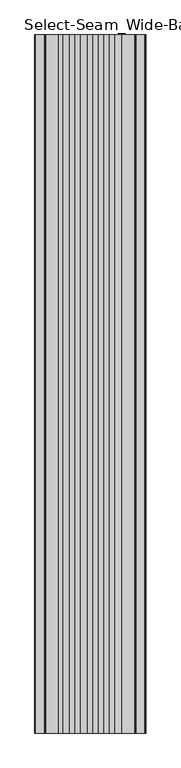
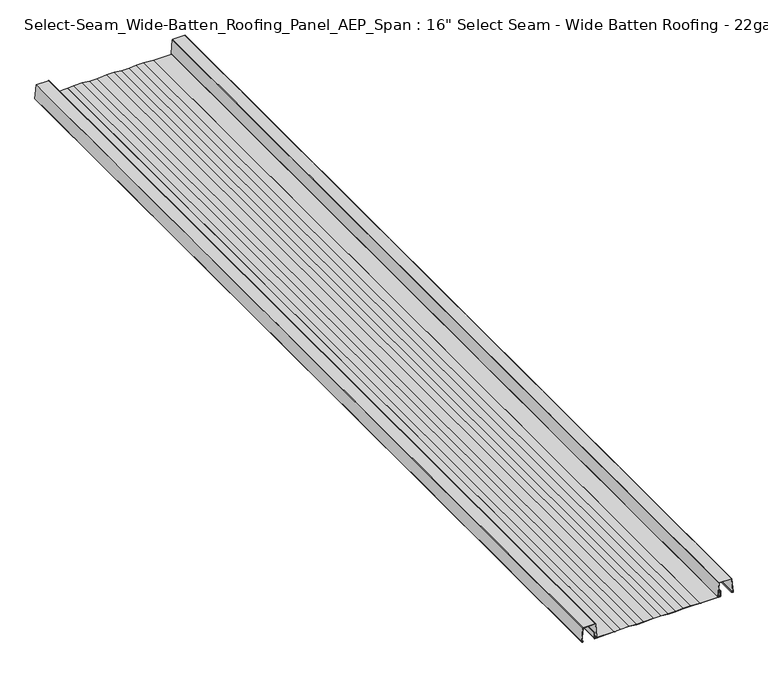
"""IFC4 building model written with IfcOpenShell, lengths in millimetres: proxy geometry."""

import ifcopenshell
import ifcopenshell.guid

model = None  # the IFC model being written
_history = None  # IfcOwnerHistory: only IFC2X3 demands one
_inside = {}  # id of a spatial element -> (the spatial element, [elements in it])
_under = {}  # id of a project, library or spatial element -> (it, [spatial elements below it])
_declared = {}  # id of a project -> (the project, [libraries it declares])
_typed = {}  # id of a type object -> (the type object, [elements of that type])
_made_of = {}  # id of a material, layer set ... -> (it, [elements and type objects made of it])


def new_model(schema):
    """Start an empty IFC model of exactly this schema.

    Asked for "IFC4X3", IfcOpenShell would pick the latest addendum, in which some entities
    have other attributes; the version numbers below select the first issue.
    IFC2X3 requires an IfcOwnerHistory on every rooted entity: one is made here for all.
    """
    global model, _history
    if schema == "IFC4X3":
        model = ifcopenshell.file(schema_version=(4, 3, 0, 0))
    else:
        model = ifcopenshell.file(schema=schema)
    _inside.clear()
    _under.clear()
    _declared.clear()
    _typed.clear()
    _made_of.clear()
    _history = None
    if model.schema == "IFC2X3":
        org = make("IfcOrganization", Name="unknown")
        user = make(
            "IfcPersonAndOrganization",
            ThePerson=make("IfcPerson", FamilyName="unknown"),
            TheOrganization=org,
        )
        app = make(
            "IfcApplication",
            ApplicationDeveloper=org,
            Version="unknown",
            ApplicationFullName="unknown",
            ApplicationIdentifier="unknown",
        )
        _history = make(
            "IfcOwnerHistory",
            OwningUser=user,
            OwningApplication=app,
            ChangeAction="ADDED",
            CreationDate=0,
        )
    return model


def make(cls, **values):
    """One entity of the class cls with the attributes given. An attribute that is None is left unset."""
    return model.create_entity(
        cls, **{name: value for name, value in values.items() if value is not None}
    )


def rooted(cls, **values):
    """An entity with a GlobalId (a new one), such as an element, a storey or a relation."""
    return make(cls, GlobalId=ifcopenshell.guid.new(), OwnerHistory=_history, **values)


def si_unit(unit_type, name, prefix=None):
    """IfcSIUnit, for example si_unit("LENGTHUNIT", "METRE", prefix="MILLI")."""
    return make("IfcSIUnit", UnitType=unit_type, Prefix=prefix, Name=name)


def assignment(units):
    """IfcUnitAssignment: the units of a project."""
    return None if units is None else make("IfcUnitAssignment", Units=units)


def point(xyz):
    """IfcCartesianPoint."""
    return None if xyz is None else make("IfcCartesianPoint", Coordinates=xyz)


def direction(xyz):
    """IfcDirection."""
    return None if xyz is None else make("IfcDirection", DirectionRatios=xyz)


def frame(location, z_axis=None, x_axis=None):
    """IfcAxis2Placement3D, a coordinate frame: its origin and axes. An axis left out is left unset."""
    return make(
        "IfcAxis2Placement3D",
        Location=point(location),
        Axis=direction(z_axis),
        RefDirection=direction(x_axis),
    )


def frame_2d(location, x_axis=None):
    """IfcAxis2Placement2D, a coordinate frame in the plane: its origin and x axis."""
    return make(
        "IfcAxis2Placement2D", Location=point(location), RefDirection=direction(x_axis)
    )


def origin():
    """The frame at (0, 0, 0) with its axes left unset."""
    return frame((0.0, 0.0, 0.0))


def place(relative_to, where):
    """IfcLocalPlacement: puts the frame where relative to a parent placement (None: the world)."""
    return make(
        "IfcLocalPlacement", PlacementRelTo=relative_to, RelativePlacement=where
    )


def context(
    kind, dimensions, precision=None, world=None, true_north=None, identifier=None
):
    """IfcGeometricRepresentationContext, for example the 3D "Model" context."""
    return make(
        "IfcGeometricRepresentationContext",
        ContextIdentifier=identifier,
        ContextType=kind,
        CoordinateSpaceDimension=dimensions,
        Precision=precision,
        WorldCoordinateSystem=world,
        TrueNorth=true_north,
    )


def project(units=None, contexts=None):
    """IfcProject with its units and contexts."""
    return rooted(
        "IfcProject",
        Name="project",
        RepresentationContexts=contexts,
        UnitsInContext=assignment(units),
    )


def spatial(cls, under=None, at=None, **own):
    """A site, building, storey or space (cls), placed at a placement, below another one or the project."""
    s = rooted(cls, ObjectPlacement=at, **own)
    if under is not None:
        _under.setdefault(under.id(), (under, []))[1].append(s)
    return s


def polyline(points):
    """IfcPolyline through the points."""
    return make("IfcPolyline", Points=[point(p) for p in points])


def circle_curve(where, radius):
    """IfcCircle in the frame where."""
    return make("IfcCircle", Position=where, Radius=radius)


def trimmed(basis, trim1, trim2, sense, master):
    """IfcTrimmedCurve: the piece of a basis curve between two trims."""
    return make(
        "IfcTrimmedCurve",
        BasisCurve=basis,
        Trim1=trim1,
        Trim2=trim2,
        SenseAgreement=sense,
        MasterRepresentation=master,
    )


def segment(curve, same_sense, transition):
    """IfcCompositeCurveSegment."""
    return make(
        "IfcCompositeCurveSegment",
        Transition=transition,
        SameSense=same_sense,
        ParentCurve=curve,
    )


def composite_curve(segments, self_intersect=None):
    """IfcCompositeCurve: segments joined end to end."""
    return make("IfcCompositeCurve", Segments=segments, SelfIntersect=self_intersect)


def outline(outer, holes=None, kind="AREA"):
    """IfcArbitraryClosedProfileDef: a profile drawn as a closed curve; with holes, ...WithVoids."""
    if holes is None:
        return make("IfcArbitraryClosedProfileDef", ProfileType=kind, OuterCurve=outer)
    return make(
        "IfcArbitraryProfileDefWithVoids",
        ProfileType=kind,
        OuterCurve=outer,
        InnerCurves=holes,
    )


def extrude(swept, where, along, depth):
    """IfcExtrudedAreaSolid: the profile swept, set in the frame where, extruded along a direction by depth."""
    return make(
        "IfcExtrudedAreaSolid",
        SweptArea=swept,
        Position=where,
        ExtrudedDirection=direction(along),
        Depth=depth,
    )


def shape(context_of_items, identifier, shape_type, items):
    """IfcShapeRepresentation: the items that make up one representation, for example the "Body"."""
    return make(
        "IfcShapeRepresentation",
        ContextOfItems=context_of_items,
        RepresentationIdentifier=identifier,
        RepresentationType=shape_type,
        Items=items,
    )


def source(mapping_origin, context_of_items, identifier, shape_type, items):
    """IfcRepresentationMap: a shape defined once, which mapped items show again and again."""
    return make(
        "IfcRepresentationMap",
        MappingOrigin=mapping_origin,
        MappedRepresentation=shape(context_of_items, identifier, shape_type, items),
    )


def transform(
    local_origin,
    x_axis=None,
    y_axis=None,
    z_axis=None,
    scale=None,
    scale2=None,
    scale3=None,
    uniform=True,
):
    """IfcCartesianTransformationOperator3D, or its non-uniform kind. x_axis, y_axis, z_axis: its Axis1, 2, 3."""
    if uniform:
        return make(
            "IfcCartesianTransformationOperator3D",
            Axis1=direction(x_axis),
            Axis2=direction(y_axis),
            LocalOrigin=point(local_origin),
            Scale=scale,
            Axis3=direction(z_axis),
        )
    return make(
        "IfcCartesianTransformationOperator3DnonUniform",
        Axis1=direction(x_axis),
        Axis2=direction(y_axis),
        LocalOrigin=point(local_origin),
        Scale=scale,
        Axis3=direction(z_axis),
        Scale2=scale2,
        Scale3=scale3,
    )


def mapped(mapping_source, mapping_target):
    """IfcMappedItem: shows the shape of a source again, moved by a transform."""
    return make(
        "IfcMappedItem", MappingSource=mapping_source, MappingTarget=mapping_target
    )


def made_of(thing, what):
    """Note that an element or type object is made of a material, layer set ...; save() writes the relation."""
    if what is not None:
        _made_of.setdefault(what.id(), (what, []))[1].append(thing)
    return thing


def element(
    cls,
    number,
    at=None,
    inside=None,
    cuts=None,
    type_object=None,
    material=None,
    context=None,
    identifier="Body",
    shape_type=None,
    held_by="IfcProductDefinitionShape",
    body=None,
    shapes=None,
    **own,
):
    """One element of the class cls, such as IfcWall. Its Tag is "e" and its number.

    at: its placement. inside: the storey or other place that contains it. cuts: it is an
    opening in that element (IfcRelVoidsElement). A single representation is given by context,
    identifier, shape_type and body (its items); several are given by shapes. held_by: the class
    of the entity that holds the representations. save() writes the other relations.
    """
    e = rooted(cls, Tag="e%d" % number, ObjectPlacement=at, **own)
    if body is not None:
        shapes = [shape(context, identifier, shape_type, body)]
    if shapes is not None:
        e.Representation = make(held_by, Representations=shapes)
    if inside is not None:
        _inside.setdefault(inside.id(), (inside, []))[1].append(e)
    if cuts is not None:
        rooted(
            "IfcRelVoidsElement", RelatingBuildingElement=cuts, RelatedOpeningElement=e
        )
    if type_object is not None:
        _typed.setdefault(type_object.id(), (type_object, []))[1].append(e)
    return made_of(e, material)


def aggregate(whole, parts):
    """IfcRelAggregates: a whole, such as a stair, and the parts it consists of."""
    return rooted("IfcRelAggregates", RelatingObject=whole, RelatedObjects=parts)


def save(model, path):
    """Write the relations noted so far, then the file.

    IfcRelAggregates (storeys below a building ...), IfcRelContainedInSpatialStructure (elements
    in a storey), IfcRelDefinesByType, IfcRelAssociatesMaterial and IfcRelDeclares: one each for
    every whole, place, type object, material and project.
    """
    for whole, parts in _under.values():
        aggregate(whole, parts)
    for where, things in _inside.values():
        rooted(
            "IfcRelContainedInSpatialStructure",
            RelatedElements=things,
            RelatingStructure=where,
        )
    for kind, things in _typed.values():
        rooted("IfcRelDefinesByType", RelatedObjects=things, RelatingType=kind)
    for what, things in _made_of.values():
        rooted("IfcRelAssociatesMaterial", RelatedObjects=things, RelatingMaterial=what)
    for by, libraries in _declared.values():
        rooted("IfcRelDeclares", RelatingContext=by, RelatedDefinitions=libraries)
    model.write(path)


def plane_surface(at):
    """IfcPlane: the flat surface through the origin of the frame at, square to its z axis."""
    return make("IfcPlane", Position=at)


def cylinder_surface(at, radius):
    """IfcCylindricalSurface: all points at the distance radius from the z axis of the frame at."""
    return make("IfcCylindricalSurface", Position=at, Radius=radius)


def revolved_surface(curve, axis_point, axis_direction):
    """IfcSurfaceOfRevolution: the curve turned about the line through axis_point along axis_direction."""
    return make(
        "IfcSurfaceOfRevolution",
        SweptCurve=make("IfcArbitraryOpenProfileDef", ProfileType="CURVE", Curve=curve),
        AxisPosition=make("IfcAxis1Placement", Location=point(axis_point), Axis=direction(axis_direction)),
    )


def advanced_brep(points, edges, surfaces, faces):
    """IfcAdvancedBrep: a solid bounded by faces that lie on surfaces and meet in shared edges.

    An edge is (start, end): straight between two places in points (the first is 0);
    or (start, end, curve); or (start, end, curve, False) where it runs against its curve.
    A face is (place in surfaces, loops), or (place, loops, False) where it looks against
    its surface's normal. A loop lists edges by number (the first is 1), with a minus sign
    where the edge is run from its end to its start. The first loop is the outer one.
    """
    corners = [point(p) for p in points]
    vertices = [make("IfcVertexPoint", VertexGeometry=c) for c in corners]
    made = []
    for start, end, *more in edges:
        made.append(
            make(
                "IfcEdgeCurve",
                EdgeStart=vertices[start],
                EdgeEnd=vertices[end],
                EdgeGeometry=more[0] if more else make("IfcPolyline", Points=[corners[start], corners[end]]),
                SameSense=more[1] if len(more) > 1 else True,
            )
        )
    hull = []
    for where, loops, *sense in faces:
        bounds = []
        for j, loop in enumerate(loops):
            ring = [make("IfcOrientedEdge", EdgeElement=made[abs(k) - 1], Orientation=k > 0) for k in loop]
            bounds.append(
                make(
                    "IfcFaceOuterBound" if j == 0 else "IfcFaceBound",
                    Bound=make("IfcEdgeLoop", EdgeList=ring),
                    Orientation=True,
                )
            )
        hull.append(make("IfcAdvancedFace", Bounds=bounds, FaceSurface=surfaces[where], SameSense=sense[0] if sense else True))
    return make("IfcAdvancedBrep", Outer=make("IfcClosedShell", CfsFaces=hull))


def proxy_3873b3a4(model_context):
    return source(origin(), model_context, "Body", "SolidModel", [
        extrude(outline(composite_curve([segment(polyline([(0.0, 144.0825265), (0.0, 207.2089983)]), True, "CONTINUOUS"), segment(trimmed(circle_curve(frame_2d((1.8096799, 207.2089983)), 1.8096799), [point((0.0, 207.2089983))], [point((1.8096799, 209.0186782))], False, "CARTESIAN"), True, "CONTINUOUS"), segment(polyline([(1.8096799, 209.0186782), (20.7458894, 209.0186782), (20.7458894, 208.2363582), (1.8096799, 208.2363582)]), True, "CONTINUOUS"), segment(trimmed(circle_curve(frame_2d((1.8096799, 207.2204283)), 1.0159299), [point((1.8096799, 208.2363582))], [point((0.79375, 207.2204283))], True, "CARTESIAN"), True, "CONTINUOUS"), segment(polyline([(0.79375, 207.2204283), (0.79375, 144.0825265), (0.0, 144.0825265)]), True, "CONTINUOUS")], self_intersect=False)), frame((0.0, -3048.0, 0.0), z_axis=(0.0, 1.0, 0.0), x_axis=(0.0, 0.0, 1.0)), (0.0, 0.0, 1.0), 3048.0),
        extrude(outline(polyline([(0.0, -132.4451702), (2.0434874, -112.7643407), (2.0434874, -84.8610195), (0.0, -61.0689441), (0.0, -37.2768688), (2.0434874, -6.0773595), (2.0434874, 17.7147158), (0.0, 41.5067912), (0.0, 65.2988665), (2.0434874, 89.0909419), (2.0434874, 112.8830172), (0.0, 144.0825265), (0.78232, 144.0825265), (2.7902474, 112.9150277), (2.7902474, 89.0589314), (0.74676, 65.2668561), (0.74676, 41.5388016), (2.7902474, 17.7467263), (2.7902474, -6.10937), (0.74676, -37.3088793), (0.74676, -61.0369337), (2.7902474, -84.829009), (2.7902474, -112.8030053), (0.78232, -132.4451702), (0.0, -132.4451702)])), frame((0.0, -3048.0, 0.0), z_axis=(0.0, 1.0, 0.0), x_axis=(0.0, 0.0, 1.0)), (0.0, 0.0, 1.0), 3048.0),
        extrude(outline(composite_curve([segment(trimmed(circle_curve(frame_2d((2.9867257, -190.4239435)), 1.5958376), [point((1.679492, -191.3392783))], [point((3.1119337, -188.8330253))], False, "CARTESIAN"), True, "CONTINUOUS"), segment(polyline([(3.1119337, -188.8330253), (48.1630451, -192.3786246)]), True, "CONTINUOUS"), segment(trimmed(circle_curve(frame_2d((48.0691392, -193.5718133)), 1.1968782), [point((48.1630451, -192.3786246))], [point((49.2660174, -193.5718133))], False, "CARTESIAN"), True, "CONTINUOUS"), segment(polyline([(49.2660174, -193.5718133), (49.2660174, -232.8508263)]), True, "CONTINUOUS"), segment(trimmed(circle_curve(frame_2d((48.0691392, -232.8508263)), 1.1968782), [point((49.2660174, -232.8508263))], [point((48.1630451, -234.044015))], False, "CARTESIAN"), True, "CONTINUOUS"), segment(polyline([(48.1630451, -234.044015), (3.1119337, -237.5896144)]), True, "CONTINUOUS"), segment(trimmed(circle_curve(frame_2d((2.9867257, -235.9986962)), 1.5958376), [point((3.1119337, -237.5896144))], [point((1.679492, -235.0833613))], False, "CARTESIAN"), True, "CONTINUOUS"), segment(polyline([(1.679492, -235.0833613), (3.6192921, -232.3130396), (4.2606393, -232.7621158), (2.2340548, -235.5932998)]), True, "CONTINUOUS"), segment(trimmed(circle_curve(frame_2d((2.8910866, -236.0533584)), 0.8020876), [point((2.2340548, -235.5932998))], [point((2.9540176, -236.8529735))], True, "CARTESIAN"), True, "CONTINUOUS"), segment(polyline([(2.9540176, -236.8529735), (48.5192574, -233.2669114), (48.5192574, -193.1557283), (3.0147274, -189.5744441)]), True, "CONTINUOUS"), segment(trimmed(circle_curve(frame_2d((2.9517963, -190.3740592)), 0.8020876), [point((3.0147274, -189.5744441))], [point((2.2947646, -190.8341178))], True, "CARTESIAN"), True, "CONTINUOUS"), segment(polyline([(2.2947646, -190.8341178), (4.2904637, -193.6396406), (3.6192921, -194.1096), (1.679492, -191.3392783)]), True, "CONTINUOUS")], self_intersect=False)), frame((0.0, -3048.0, 0.0), z_axis=(0.0, 1.0, 0.0), x_axis=(0.0, 0.0, 1.0)), (0.0, 0.0, 1.0), 3048.0),
        advanced_brep(
        [(246.9774745, -3048.0, 1.679492), (249.4837276, -3048.0, 3.1119337), (245.9381283, -3048.0, 48.1630451), (244.7449396, -3048.0, 49.2660174), (205.4659266, -3048.0, 49.2660174), (204.2727379, -3048.0, 48.1630451), (200.7271385, -3048.0, 3.1119337), (203.2333916, -3048.0, 1.679492), (206.0037133, -3048.0, 3.6192921), (205.5487948, -3048.0, 4.2689831), (202.8145099, -3048.0, 2.2980083), (201.4744428, -3048.0, 3.0531195), (205.0498415, -3048.0, 48.5192574), (245.1610246, -3048.0, 48.5192574), (248.7320399, -3048.0, 3.1452062), (247.2543096, -3048.0, 2.3972757), (244.6582739, -3048.0, 4.2635596), (244.2071529, -3048.0, 3.6192921), (246.9774745, 0.0, 1.679492), (244.2071529, 0.0, 3.6192921), (244.6582739, 0.0, 4.2635596), (247.2543096, 0.0, 2.3972757), (248.7320399, 0.0, 3.1452062), (245.1610246, 0.0, 48.5192574), (205.0498415, 0.0, 48.5192574), (201.4715965, 0.0, 3.0533436), (202.8128871, 0.0, 2.3002597), (205.5487948, 0.0, 4.2689831), (206.0037133, 0.0, 3.6192921), (203.2333916, 0.0, 1.679492), (200.7271385, 0.0, 3.1119337), (204.2727379, 0.0, 48.1630451), (205.4659266, 0.0, 49.2660174), (244.7449396, 0.0, 49.2660174), (245.9381283, 0.0, 48.1630451), (249.4837276, 0.0, 3.1119337)],
        [
            (0, 1, circle_curve(frame((247.8928094, -3048.0, 2.9867257), z_axis=(0.0, -1.0, 0.0), x_axis=(1.0, 0.0, 0.0)), 1.5958376)),
            (1, 2),
            (2, 3, circle_curve(frame((244.7449396, -3048.0, 48.0691392), z_axis=(0.0, -1.0, 0.0), x_axis=(1.0, 0.0, 0.0)), 1.1968782)),
            (3, 4),
            (4, 5, circle_curve(frame((205.4659266, -3048.0, 48.0691392), z_axis=(0.0, -1.0, 0.0), x_axis=(1.0, 0.0, 0.0)), 1.1968782)),
            (5, 6),
            (6, 7, circle_curve(frame((202.3180567, -3048.0, 2.9867257), z_axis=(0.0, -1.0, 0.0), x_axis=(1.0, 0.0, 0.0)), 1.5958376)),
            (7, 8),
            (8, 9),
            (9, 10),
            (10, 11, circle_curve(frame((202.3180567, -3048.0, 2.9867257), z_axis=(0.0, 1.0, 0.0), x_axis=(1.0, 0.0, 0.0)), 0.8462226)),
            (11, 12),
            (12, 13),
            (13, 14),
            (14, 15, circle_curve(frame((247.839453, -3048.0, 3.0749581), z_axis=(0.0, 1.0, 0.0), x_axis=(1.0, 0.0, 0.0)), 0.895347)),
            (15, 16),
            (16, 17),
            (17, 0),
            (18, 19),
            (19, 20),
            (20, 21),
            (21, 22, circle_curve(frame((247.839453, 0.0, 3.0749581), z_axis=(0.0, -1.0, 0.0), x_axis=(1.0, 0.0, 0.0)), 0.895347)),
            (22, 23),
            (23, 24),
            (24, 25),
            (25, 26, circle_curve(frame((202.3180567, 0.0, 2.9867257), z_axis=(0.0, -1.0, 0.0), x_axis=(1.0, 0.0, 0.0)), 0.8462226)),
            (26, 27),
            (27, 28),
            (28, 29),
            (29, 30, circle_curve(frame((202.3180567, 0.0, 2.9867257), z_axis=(0.0, 1.0, 0.0), x_axis=(1.0, 0.0, 0.0)), 1.5958376)),
            (30, 31),
            (31, 32, circle_curve(frame((205.4659266, 0.0, 48.0691392), z_axis=(0.0, 1.0, 0.0), x_axis=(1.0, 0.0, 0.0)), 1.1968782)),
            (32, 33),
            (33, 34, circle_curve(frame((244.7449396, 0.0, 48.0691392), z_axis=(0.0, 1.0, 0.0), x_axis=(1.0, 0.0, 0.0)), 1.1968782)),
            (34, 35),
            (35, 18, circle_curve(frame((247.8928094, 0.0, 2.9867257), z_axis=(0.0, 1.0, 0.0), x_axis=(1.0, 0.0, 0.0)), 1.5958376)),
            (0, 18),
            (35, 1),
            (34, 2),
            (33, 3),
            (32, 4),
            (31, 5),
            (30, 6),
            (29, 7),
            (28, 8),
            (11, 25),
            (24, 12),
            (23, 13),
            (22, 14),
            (21, 15),
            (17, 19),
            (27, 9),
            (26, 10),
            (20, 16),
        ],
        [
            plane_surface(frame((249.4886471, -3048.0, 2.9867257), z_axis=(0.0, -1.0, 0.0), x_axis=(0.0, 0.0, 1.0))),
            plane_surface(frame((249.4886471, 0.0, 2.9867257), z_axis=(0.0, 1.0, 0.0), x_axis=(0.0, 0.0, -1.0))),
            cylinder_surface(frame((247.8928094, 0.0, 2.9867257), z_axis=(0.0, -1.0, 0.0), x_axis=(1.0, 0.0, 0.0)), 1.5958376),
            plane_surface(frame((249.4837276, -3048.0, 3.1119337), z_axis=(0.9969173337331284, 0.0, 0.07845909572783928), x_axis=(0.0, 1.0, 0.0))),
            cylinder_surface(frame((244.7449396, 0.0, 48.0691392), z_axis=(0.0, -1.0, 0.0), x_axis=(1.0, 0.0, 0.0)), 1.1968782),
            plane_surface(frame((244.7449396, -3048.0, 49.2660174), z_axis=(0.0, 0.0, 1.0), x_axis=(0.0, 1.0, 0.0))),
            cylinder_surface(frame((205.4659266, 0.0, 48.0691392), z_axis=(0.0, -1.0, 0.0), x_axis=(1.0, 0.0, 0.0)), 1.1968782),
            plane_surface(frame((204.2727379, -3048.0, 48.1630451), z_axis=(-0.9969173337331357, 0.0, 0.07845909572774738), x_axis=(0.0, 1.0, 0.0))),
            cylinder_surface(frame((202.3180567, 0.0, 2.9867257), z_axis=(0.0, -1.0, 0.0), x_axis=(1.0, 0.0, 0.0)), 1.5958376),
            plane_surface(frame((203.2333916, -3048.0, 1.679492), z_axis=(0.5735764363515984, 0.0, -0.8191520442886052), x_axis=(0.0, 1.0, 0.0))),
            plane_surface(frame((201.4715965, -3048.0, 3.0533436), z_axis=(0.9969173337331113, 0.0, -0.07845909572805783), x_axis=(0.0, 1.0, 0.0))),
            plane_surface(frame((205.0498415, -3048.0, 48.5192574), z_axis=(0.0, 0.0, -1.0), x_axis=(0.0, 1.0, 0.0))),
            plane_surface(frame((245.1610246, -3048.0, 48.5192574), z_axis=(-0.9969173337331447, 0.0, -0.07845909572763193), x_axis=(0.0, 1.0, 0.0))),
            revolved_surface(polyline([(248.73479999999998, 0.0, 3.0749581), (248.73479999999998, -3048.0, 3.0749581)]), (247.839453, 0.0, 3.0749581), (0.0, 1.0, 0.0)),
            plane_surface(frame((244.2071529, -3048.0, 3.6192921), z_axis=(-0.5735764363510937, 0.0, -0.8191520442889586), x_axis=(0.0, 1.0, 0.0))),
            plane_surface(frame((206.0037133, -3048.0, 3.6192921), z_axis=(0.8191520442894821, 0.0, 0.5735764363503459), x_axis=(0.0, 1.0, 0.0))),
            plane_surface(frame((205.5487948, -3048.0, 4.2689831), z_axis=(-0.5847520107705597, 0.0, 0.811212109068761), x_axis=(0.0, 1.0, 0.0))),
            revolved_surface(polyline([(203.1642793, 0.0, 2.9867257), (203.1642793, -3048.0, 2.9867257)]), (202.3180567, 0.0, 2.9867257), (0.0, 1.0, 0.0)),
            plane_surface(frame((247.2543096, -3048.0, 2.3972757), z_axis=(0.5837150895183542, 0.0, 0.8119585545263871), x_axis=(0.0, 1.0, 0.0))),
            plane_surface(frame((244.6582739, -3048.0, 4.2635596), z_axis=(-0.8191520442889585, 0.0, 0.5735764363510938), x_axis=(0.0, 1.0, 0.0))),
        ],
        [
            (0, [[1, 2, 3, 4, 5, 6, 7, 8, 9, 10, 11, 12, 13, 14, 15, 16, 17, 18]]),
            (1, [[19, 20, 21, 22, 23, 24, 25, 26, 27, 28, 29, 30, 31, 32, 33, 34, 35, 36]]),
            (2, [[-1, 37, -36, 38]]),
            (3, [[-2, -38, -35, 39]]),
            (4, [[-3, -39, -34, 40]]),
            (5, [[-4, -40, -33, 41]]),
            (6, [[-5, -41, -32, 42]]),
            (7, [[-6, -42, -31, 43]]),
            (8, [[-7, -43, -30, 44]]),
            (9, [[-8, -44, -29, 45]]),
            (10, [[-12, 46, -25, 47]]),
            (11, [[-13, -47, -24, 48]]),
            (12, [[-14, -48, -23, 49]]),
            (13, [[-15, -49, -22, 50]]),
            (14, [[-18, 51, -19, -37]]),
            (15, [[-9, -45, -28, 52]]),
            (16, [[-10, -52, -27, 53]]),
            (17, [[-11, -53, -26, -46]]),
            (18, [[-16, -50, -21, 54]]),
            (19, [[-17, -54, -20, -51]]),
        ],
    ),
        extrude(outline(composite_curve([segment(polyline([(20.7458894, -197.3813218), (0.9605486, -197.3813218)]), True, "CONTINUOUS"), segment(trimmed(circle_curve(frame_2d((0.9605486, -196.4207733)), 0.9605486), [point((0.9605486, -197.3813218))], [point((0.0, -196.4207733))], False, "CARTESIAN"), True, "CONTINUOUS"), segment(polyline([(0.0, -196.4207733), (0.0, -132.4451702), (0.78232, -132.4451702), (0.78232, -196.5989922), (20.7458894, -196.5989922), (20.7458894, -197.3813218)]), True, "CONTINUOUS")], self_intersect=False)), frame((0.0, -3048.0, 0.0), z_axis=(0.0, 1.0, 0.0), x_axis=(0.0, 0.0, 1.0)), (0.0, 0.0, 1.0), 3048.0),
    ])


if __name__ == "__main__":
    model = new_model("IFC4")
    model_context = context("Model", 3, world=origin())
    ifc_project = project(units=[si_unit("LENGTHUNIT", "METRE", prefix="MILLI")], contexts=[model_context])
    site = spatial("IfcSite", under=ifc_project)
    building = spatial("IfcBuilding", under=site)
    placement = place(None, origin())
    proxy_shape = proxy_3873b3a4(model_context)
    element("IfcBuildingElementProxy", 1, Name="Select-Seam_Wide-Batten_Roofing_Panel_AEP_Span : 16\" Select Seam - Wide Batten Roofing - 22ga", ObjectType="Select-Seam_Wide-Batten_Roofing_Panel_AEP_Span : 16\" Select Seam - Wide Batten Roofing - 22ga", at=placement, inside=building, context=model_context, shape_type="MappedRepresentation", body=[
        mapped(proxy_shape, transform((0.0, 0.0, 0.0), x_axis=(1.0, 0.0, 0.0), y_axis=(0.0, 1.0, 0.0), z_axis=(0.0, 0.0, 1.0))),
    ])
    save(model, "model.ifc")
